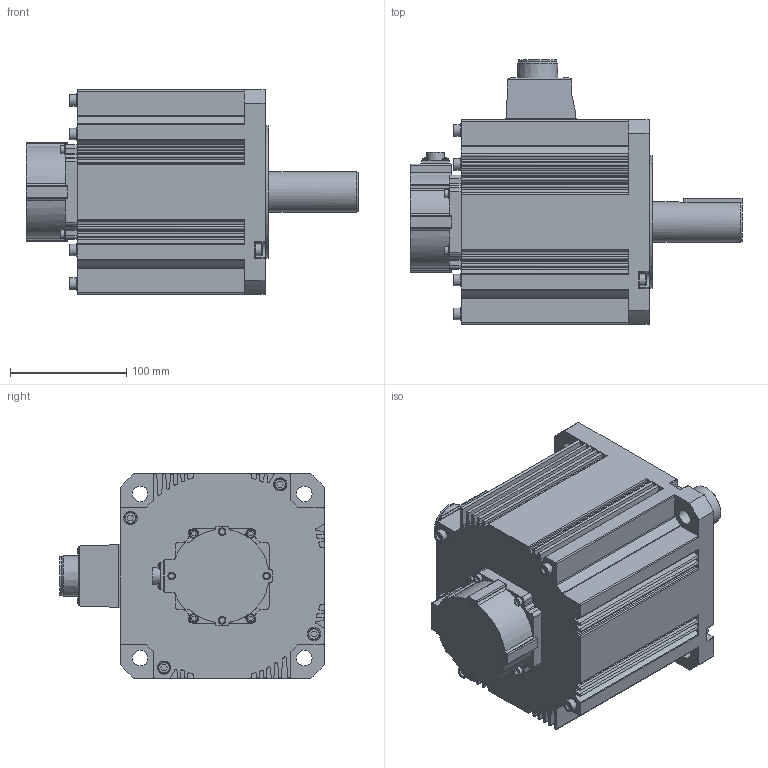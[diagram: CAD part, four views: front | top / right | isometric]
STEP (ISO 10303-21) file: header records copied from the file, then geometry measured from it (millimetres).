
FILE_DESCRIPTION( ( 'STEP AP0' ), '1' );
FILE_NAME( '//expscmdclustefs.cadenas.external/client_exchange/iodir/jobs/output/wkb64913581_no0/STEP/MHME204G1G_2_03.stp', ' ', ( ' ' ), ( ' ' ), 'PSStep 15.0.47', 'PARTsolutions', ' ' );
FILE_SCHEMA( ( 'CONFIG_CONTROL_DESIGN' ) );
Length unit declared in the file: millimetre
Products named in the file (1): HI_MHME204G1G
Bounding box: 286 x 228 x 176 mm (x, y, z)
Volume: 4893527.1 mm3; surface area: 255738.4 mm2
Topology: 1 solids, 1 shells, 583 faces, 1524 edges, 995 vertices
Faces by surface type: plane 307, cylinder 229, cone 22, torus 13, sphere 8, bspline 4
Full cylindrical faces by diameter (mm): 2.459 x1, 5.5 x4, 6.5 x4, 7 x4, 10 x8, 11.5 x8, 13.5 x4, 14.8 x1, 32.9 x1, 35 x1, 52 x1, 58 x1, 67 x1, 105 x1, 114.3 x1
Entity records: 17764 total; most frequent: CARTESIAN_POINT 3379, DIRECTION 3068, ORIENTED_EDGE 2844, EDGE_CURVE 1422, AXIS2_PLACEMENT_3D 1101, VERTEX_POINT 984, LINE 866, VECTOR 866
